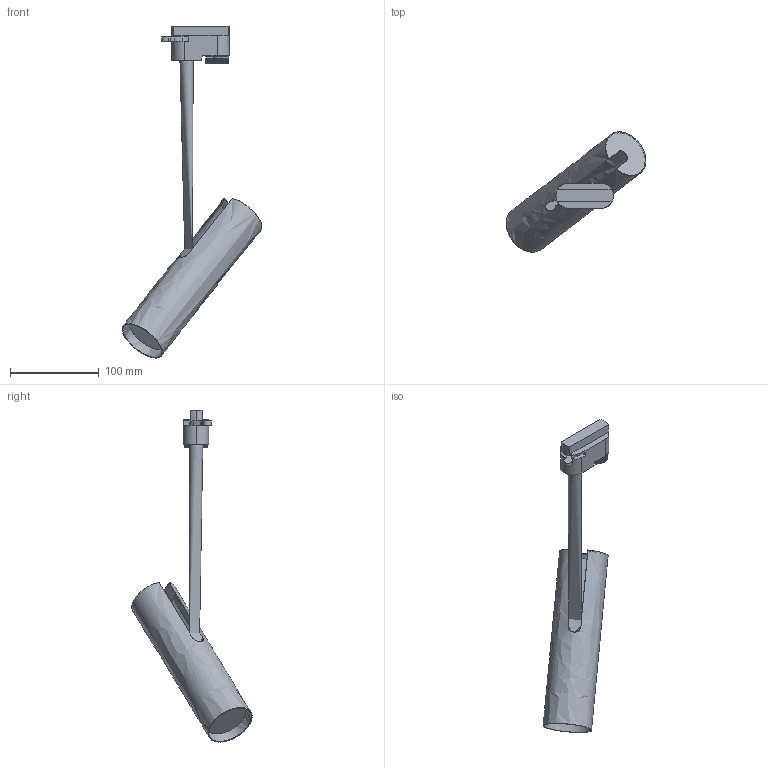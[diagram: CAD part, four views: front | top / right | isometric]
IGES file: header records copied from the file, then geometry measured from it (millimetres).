
Start section: SolidWorks IGES file using NURBS representation for surfaces
Global section: file name: Z:\Modele 3D_WWW\_KOLEKCJE WWW\PROFILE SYSTEM\PROFILE-EYE-SUPER-C\9244\PROFILE-EYE-SUPER-C-9244.IGS; native system: SolidWorks 2021; preprocessor: SolidWorks 2021; author: gabriela.tworek; date: 220204.132751; units: millimetre
Bounding box: 157.6 x 135.45 x 374.03 mm (x, y, z)
Surface area: 97300.2 mm2 (no closed solid volume)
Topology: 0 solids, 0 shells, 171 faces, 1011 edges, 1006 vertices
Faces by surface type: bspline 171
